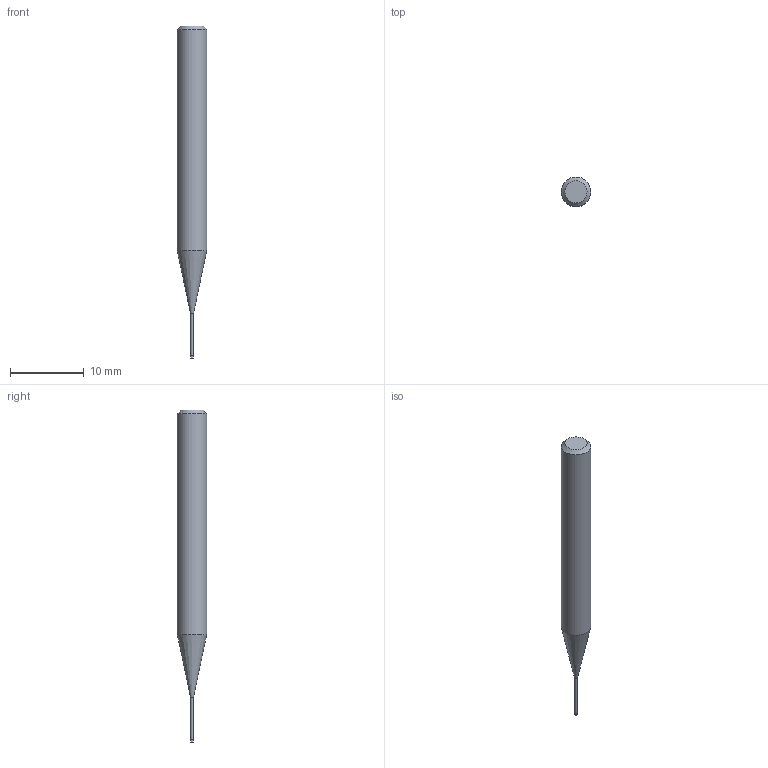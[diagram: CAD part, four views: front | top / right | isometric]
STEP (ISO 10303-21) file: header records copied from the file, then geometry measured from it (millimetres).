
FILE_DESCRIPTION((''),'2;1');
FILE_NAME('C:\Users\nsx150\AppData\Local\Temp\Mastercam 2021\RJ5U8K7RMU\TEMP.step','2021-04-21T16:39:54',(''),(''),'STEP Write','Mastercam 2021 ... CNC Software, Inc.','');
FILE_SCHEMA(('AUTOMOTIVE_DESIGN'));
Length unit declared in the file: millimetre
Products named in the file (1): None
Bounding box: 4 x 4 x 45 mm (x, y, z)
Volume: 421.4 mm3; surface area: 458.6 mm2
Topology: 2 solids, 2 shells, 9 faces, 12 edges, 7 vertices
Faces by surface type: plane 4, cylinder 3, cone 2
Full cylindrical faces by diameter (mm): 0.37 x1, 0.4 x1, 4 x1
Entity records: 211 total; most frequent: DIRECTION 36, CARTESIAN_POINT 25, AXIS2_PLACEMENT_3D 18, ORIENTED_EDGE 14, EDGE_LOOP 14, STYLED_ITEM 12, ADVANCED_FACE 9, FACE_BOUND 8
